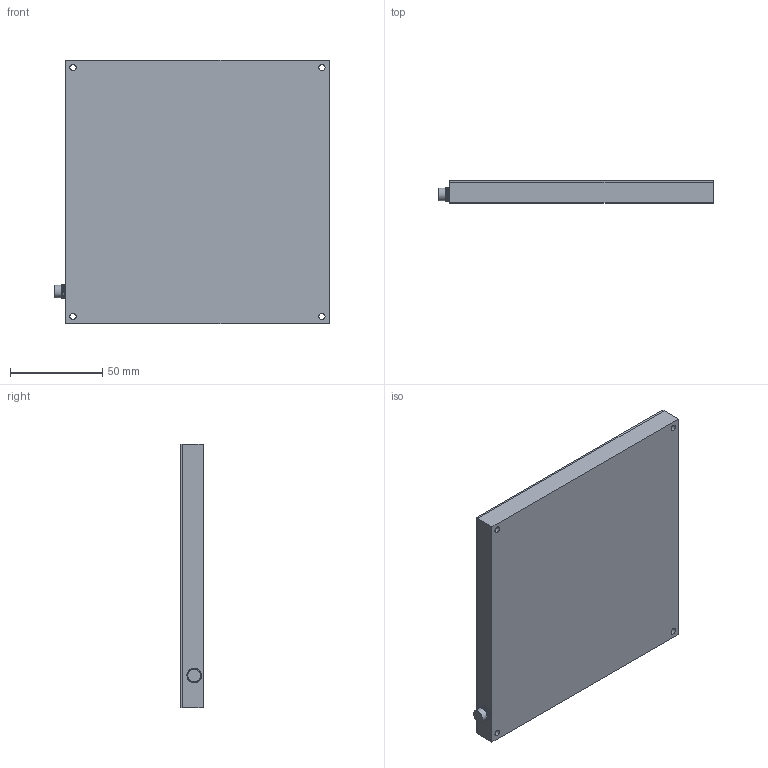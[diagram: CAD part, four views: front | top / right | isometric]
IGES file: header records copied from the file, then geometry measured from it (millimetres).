
Global section: file name: 153-00829_LF 100 A WD-24-KFL5-65; native system: Autodesk Inventor 2018; preprocessor: unknown; author: ss; date: 20180726.102348; units: millimetre
Bounding box: 148.9 x 12 x 143 mm (x, y, z)
Volume: 242743.1 mm3; surface area: 48646.1 mm2
Topology: 1 solids, 1 shells, 61 faces, 158 edges, 118 vertices
Faces by surface type: bspline 61
